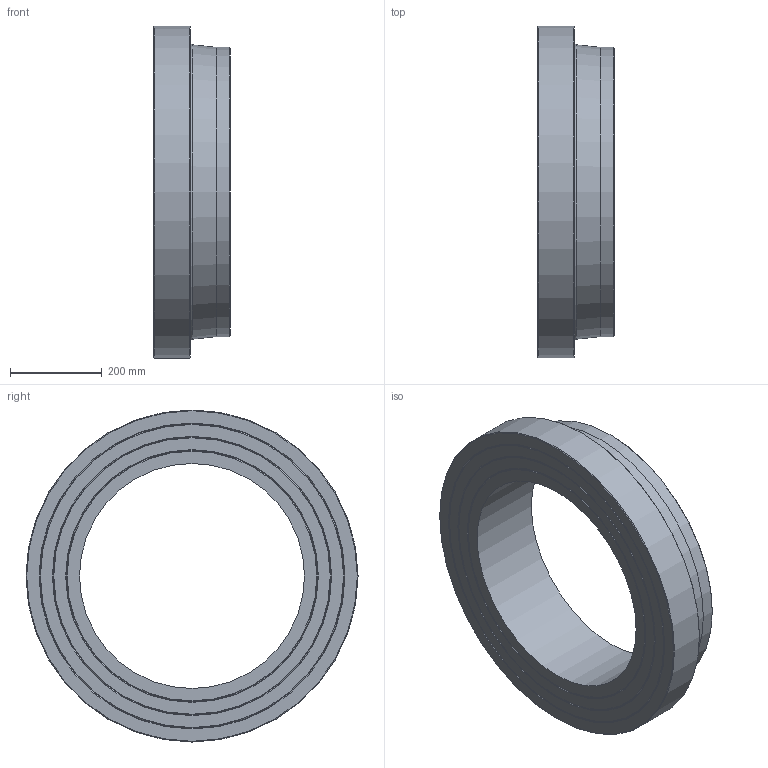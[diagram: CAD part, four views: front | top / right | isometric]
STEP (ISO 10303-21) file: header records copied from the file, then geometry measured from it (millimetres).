
FILE_DESCRIPTION(/* description */ ('Unknown'),/* implementation_level */ '2;1');
FILE_NAME(/* name */ 'CCP630G',/* time_stamp */ '2022-04-04T14:30:34+02:00',/* author */ ('Unknown'),/* organization */ ('Unknown'),/* preprocessor_version */ 'ST-DEVELOPER v18.1',/* originating_system */ 'Solid Edge',/* authorisation */ 'Unknown');
FILE_SCHEMA (('AUTOMOTIVE_DESIGN {1 0 10303 214 3 1 1}'));
Length unit declared in the file: millimetre
Products named in the file (1): CCP630G
Bounding box: 167 x 723 x 723 mm (x, y, z)
Volume: 28804291.4 mm3; surface area: 1037812.2 mm2
Topology: 1 solids, 1 shells, 20 faces, 35 edges, 21 vertices
Faces by surface type: cone 10, plane 6, cylinder 3, torus 1
Full cylindrical faces by diameter (mm): 490 x1, 630 x1, 723 x1
Entity records: 438 total; most frequent: DIRECTION 82, CARTESIAN_POINT 61, AXIS2_PLACEMENT_3D 41, ORIENTED_EDGE 40, EDGE_LOOP 40, FACE_BOUND 40, EDGE_CURVE 20, VERTEX_POINT 20
